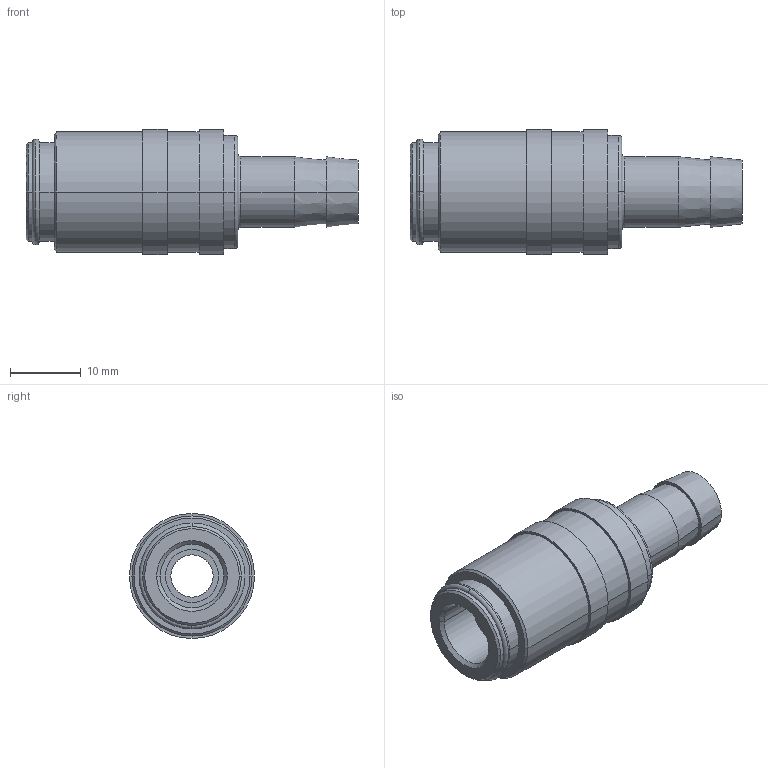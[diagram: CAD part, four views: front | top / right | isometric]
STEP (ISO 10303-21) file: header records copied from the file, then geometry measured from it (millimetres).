
FILE_DESCRIPTION( ( '' ), '1' );
FILE_NAME( 'D:/3D/7/MK/MK 10-9.stp', '2008-07-15T20:58:22', ( '' ), ( '' ), ' ', ' ', ' ' );
FILE_SCHEMA( ( 'automotive_design' ) );
Length unit declared in the file: millimetre
Products named in the file (1): 1
Bounding box: 47 x 17.7 x 17.7 mm (x, y, z)
Volume: 6239.1 mm3; surface area: 3786 mm2
Topology: 1 solids, 1 shells, 51 faces, 112 edges, 72 vertices
Faces by surface type: cylinder 22, plane 11, cone 10, torus 8
Entity records: 2799 total; most frequent: DIRECTION 296, STYLED_ITEM 236, PRESENTATION_STYLE_ASSIGNMENT 236, CARTESIAN_POINT 236, COLOUR_RGB 236, ORIENTED_EDGE 224, AXIS2_PLACEMENT_3D 132, EDGE_CURVE 112
